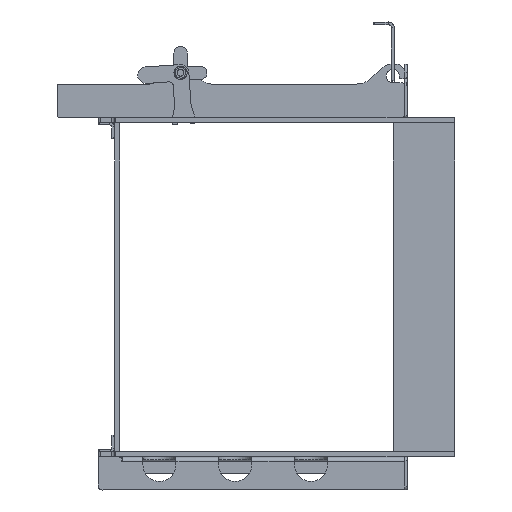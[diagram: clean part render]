
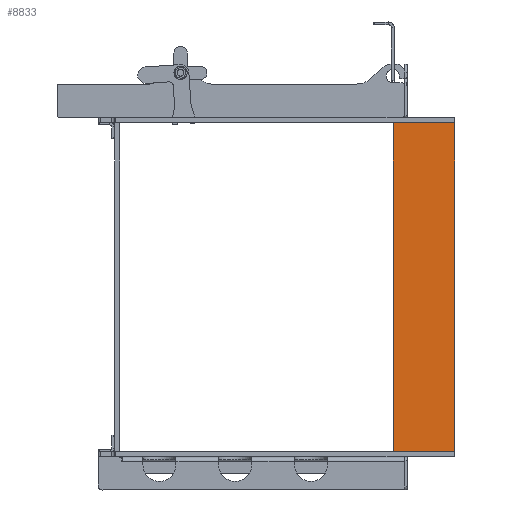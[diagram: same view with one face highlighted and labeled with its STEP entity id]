
A CAD part, left-side view. The second image highlights one B-rep face of the part: STEP entity #8833.
In plain terms, the highlighted planar face has unit normal (-1, 0, 0).
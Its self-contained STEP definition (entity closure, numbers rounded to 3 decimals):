
#348=PLANE('',#9553);
#710=FACE_OUTER_BOUND('',#1212,.T.);
#1212=EDGE_LOOP('',(#6881,#6882,#6883,#6884,#6885,#6886,#6887,#6888));
#1868=LINE('',#13877,#2724);
#1869=LINE('',#13882,#2725);
#1870=LINE('',#13886,#2726);
#1871=LINE('',#13889,#2727);
#2724=VECTOR('',#11217,10.);
#2725=VECTOR('',#11222,10.);
#2726=VECTOR('',#11225,10.);
#2727=VECTOR('',#11228,10.);
#3400=CIRCLE('',#9551,1.);
#3401=CIRCLE('',#9554,1.);
#3402=CIRCLE('',#9555,1.);
#3403=CIRCLE('',#9556,1.);
#4001=VERTEX_POINT('',#13867);
#4002=VERTEX_POINT('',#13869);
#4004=VERTEX_POINT('',#13875);
#4005=VERTEX_POINT('',#13879);
#4006=VERTEX_POINT('',#13881);
#4007=VERTEX_POINT('',#13883);
#4008=VERTEX_POINT('',#13885);
#4009=VERTEX_POINT('',#13887);
#5028=EDGE_CURVE('',#4002,#4001,#3400,.T.);
#5032=EDGE_CURVE('',#4001,#4004,#1868,.T.);
#5033=EDGE_CURVE('',#4004,#4005,#3401,.T.);
#5034=EDGE_CURVE('',#4005,#4006,#1869,.T.);
#5035=EDGE_CURVE('',#4006,#4007,#3402,.T.);
#5036=EDGE_CURVE('',#4007,#4008,#1870,.T.);
#5037=EDGE_CURVE('',#4008,#4009,#3403,.T.);
#5038=EDGE_CURVE('',#4009,#4002,#1871,.T.);
#6881=ORIENTED_EDGE('',*,*,#5028,.T.);
#6882=ORIENTED_EDGE('',*,*,#5032,.T.);
#6883=ORIENTED_EDGE('',*,*,#5033,.T.);
#6884=ORIENTED_EDGE('',*,*,#5034,.T.);
#6885=ORIENTED_EDGE('',*,*,#5035,.T.);
#6886=ORIENTED_EDGE('',*,*,#5036,.T.);
#6887=ORIENTED_EDGE('',*,*,#5037,.T.);
#6888=ORIENTED_EDGE('',*,*,#5038,.T.);
#8833=ADVANCED_FACE('',(#710),#348,.T.);
#9551=AXIS2_PLACEMENT_3D('',#13870,#11210,#11211);
#9553=AXIS2_PLACEMENT_3D('',#13878,#11218,#11219);
#9554=AXIS2_PLACEMENT_3D('',#13880,#11220,#11221);
#9555=AXIS2_PLACEMENT_3D('',#13884,#11223,#11224);
#9556=AXIS2_PLACEMENT_3D('',#13888,#11226,#11227);
#11210=DIRECTION('center_axis',(-1.,0.,0.));
#11211=DIRECTION('ref_axis',(0.,0.707,-0.707));
#11217=DIRECTION('',(0.,-1.,0.));
#11218=DIRECTION('center_axis',(-1.,0.,0.));
#11219=DIRECTION('ref_axis',(0.,-1.,0.));
#11220=DIRECTION('center_axis',(-1.,0.,0.));
#11221=DIRECTION('ref_axis',(0.,-0.707,-0.707));
#11222=DIRECTION('',(0.,0.,1.));
#11223=DIRECTION('center_axis',(-1.,0.,0.));
#11224=DIRECTION('ref_axis',(0.,-0.707,0.707));
#11225=DIRECTION('',(0.,1.,0.));
#11226=DIRECTION('center_axis',(-1.,0.,0.));
#11227=DIRECTION('ref_axis',(0.,0.707,0.707));
#11228=DIRECTION('',(0.,0.,-1.));
#13867=CARTESIAN_POINT('',(-8.,92.,-499.));
#13869=CARTESIAN_POINT('',(-8.,93.,-498.));
#13870=CARTESIAN_POINT('Origin',(-8.,92.,-498.));
#13875=CARTESIAN_POINT('',(-8.,1.,-499.));
#13877=CARTESIAN_POINT('',(-8.,93.,-499.));
#13878=CARTESIAN_POINT('Origin',(-8.,46.5,-249.5));
#13879=CARTESIAN_POINT('',(-8.,0.,-498.));
#13880=CARTESIAN_POINT('Origin',(-8.,1.,-498.));
#13881=CARTESIAN_POINT('',(-8.,0.,-1.));
#13882=CARTESIAN_POINT('',(-8.,0.,-499.));
#13883=CARTESIAN_POINT('',(-8.,1.,0.));
#13884=CARTESIAN_POINT('Origin',(-8.,1.,-1.));
#13885=CARTESIAN_POINT('',(-8.,92.,0.));
#13886=CARTESIAN_POINT('',(-8.,0.,0.));
#13887=CARTESIAN_POINT('',(-8.,93.,-1.));
#13888=CARTESIAN_POINT('Origin',(-8.,92.,-1.));
#13889=CARTESIAN_POINT('',(-8.,93.,0.));
